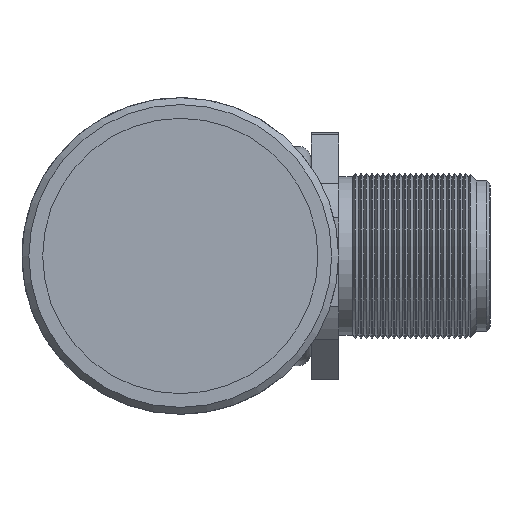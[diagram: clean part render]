
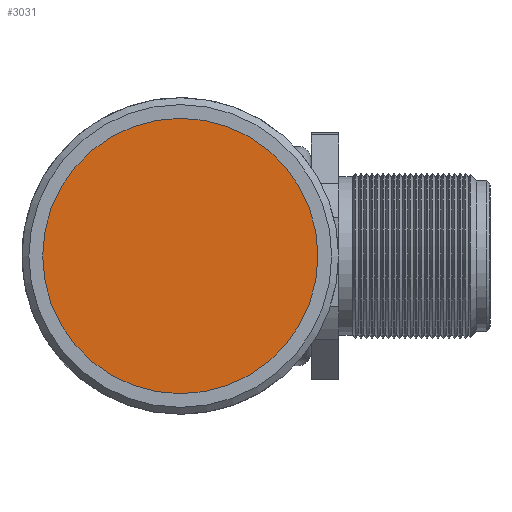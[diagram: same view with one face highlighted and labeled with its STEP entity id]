
A CAD part, left-side view. The second image highlights one B-rep face of the part: STEP entity #3031.
In plain terms, the highlighted planar face has unit normal (-1, 0, 0).
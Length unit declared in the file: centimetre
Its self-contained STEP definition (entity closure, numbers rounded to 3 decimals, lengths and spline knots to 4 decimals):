
#744=VERTEX_POINT('',#4339);
#1013=CIRCLE('',#3274,1.);
#1181=EDGE_CURVE('',#744,#744,#1013,.T.);
#1581=ORIENTED_EDGE('',*,*,#1181,.T.);
#2350=EDGE_LOOP('',(#1581));
#2695=FACE_BOUND('',#2350,.T.);
#3031=ADVANCED_FACE('',(#2695),#5516,.F.);
#3274=AXIS2_PLACEMENT_3D('',#4338,#3631,#3632);
#3275=AXIS2_PLACEMENT_3D('',#4340,#3633,$);
#3631=DIRECTION('',(-1.,0.,0.));
#3632=DIRECTION('',(0.,0.,-1.));
#3633=DIRECTION('',(1.,0.,0.));
#4338=CARTESIAN_POINT('',(-3.4,0.,0.));
#4339=CARTESIAN_POINT('',(-3.4,0.,-1.));
#4340=CARTESIAN_POINT('',(-3.4,0.,0.));
#5516=PLANE('',#3275);
